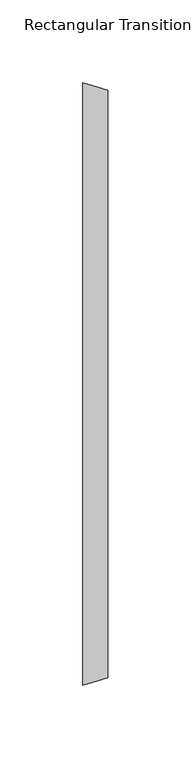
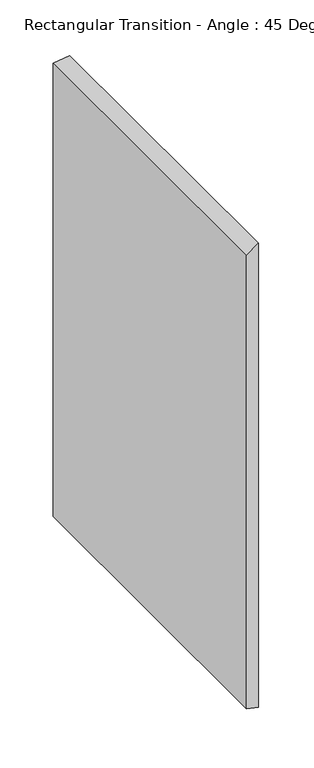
"""IFC4 building model written with IfcOpenShell, lengths in millimetres: duct fitting geometry, Rectangular Transition - Angle : 45 Degree."""

from ifc_helpers import new_model, si_unit, origin, place, context, project, spatial, faceted_brep, source, transform, mapped, element, save


def rectangular_transition_angle_45_degree_272a0e48(model_context):
    return source(origin(), model_context, "Body", "Brep", [
        faceted_brep([(15.3302561, -177.8, 266.7), (15.3302561, -177.8, -266.7), (15.3302561, 177.8, -266.7), (15.3302561, 177.8, 266.7), (0.0, -182.2648438, 260.35), (0.0, 182.2648437, 260.35), (0.0, 182.2648437, -260.35), (0.0, -182.2648438, -260.35)], [[[0, 1, 2, 3]], [[4, 5, 6, 7]], [[4, 7, 1, 0]], [[7, 6, 2, 1]], [[6, 5, 3, 2]], [[5, 4, 0, 3]]]),
    ])


if __name__ == "__main__":
    model = new_model("IFC4")
    model_context = context("Model", 3, world=origin())
    ifc_project = project(units=[si_unit("LENGTHUNIT", "METRE", prefix="MILLI")], contexts=[model_context])
    site = spatial("IfcSite", under=ifc_project)
    building = spatial("IfcBuilding", under=site)
    placement = place(None, origin())
    rectangular_transition_angle_45_degree_shape = rectangular_transition_angle_45_degree_272a0e48(model_context)
    element("IfcDuctFitting", 1, ObjectType="Rectangular Transition - Angle : 45 Degree", at=placement, inside=building, context=model_context, shape_type="MappedRepresentation", body=[
        mapped(rectangular_transition_angle_45_degree_shape, transform((0.0, 0.0, 0.0), x_axis=(1.0, 0.0, 0.0), y_axis=(0.0, 1.0, 0.0), z_axis=(0.0, 0.0, 1.0))),
    ])
    save(model, "model.ifc")
